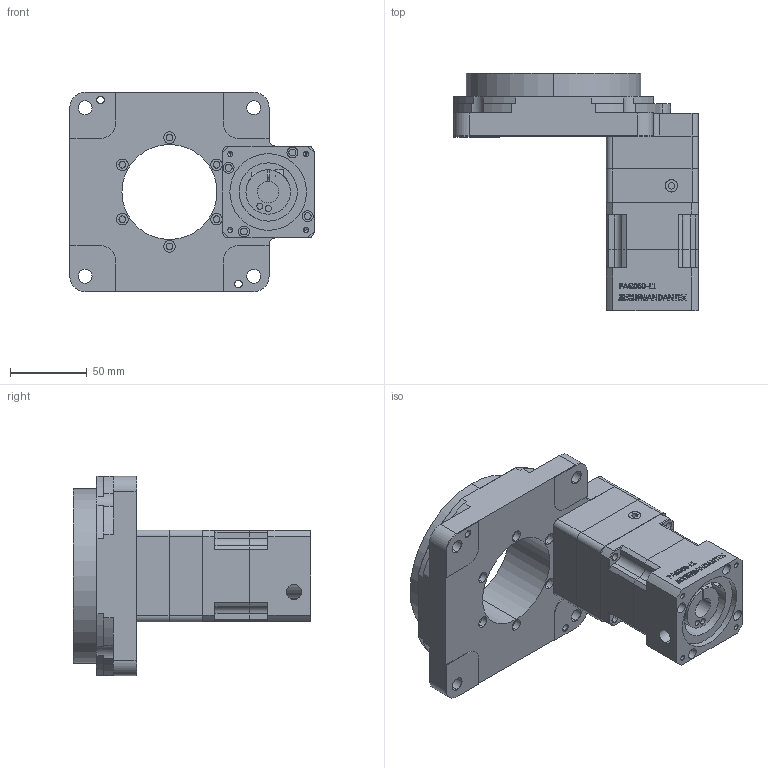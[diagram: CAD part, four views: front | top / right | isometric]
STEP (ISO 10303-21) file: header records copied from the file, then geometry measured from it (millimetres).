
FILE_DESCRIPTION (( 'STEP AP203' ), '1' );
FILE_NAME ('NT130-10-PAG060-3.STEP', '2022-07-28T03:24:18', ( '' ), ( '' ), 'SwSTEP 2.0', 'SolidWorks 2021', '' );
FILE_SCHEMA (( 'CONFIG_CONTROL_DESIGN' ));
Length unit declared in the file: millimetre
Products named in the file (3): NT130-10K.step; NT130-10-PAG060-3; PAG060-L1塋拊佴杻ANDANTEX.step
Assembly tree (2 placements, depth 2):
  NT130-10-PAG060-3
    PAG060-L1塋拊佴杻ANDANTEX.step
    NT130-10K.step
Bounding box: 159.4 x 155 x 130 mm (x, y, z)
Volume: 808674.3 mm3; surface area: 158406.6 mm2
Topology: 11 solids, 11 shells, 1511 faces, 4000 edges, 2634 vertices
Faces by surface type: plane 923, cylinder 308, bspline 220, cone 52, torus 8
Entity records: 55302 total; most frequent: CARTESIAN_POINT 18486, ORIENTED_EDGE 7932, DIRECTION 6766, EDGE_CURVE 3966, LINE 2756, VECTOR 2756, VERTEX_POINT 2634, AXIS2_PLACEMENT_3D 2005
